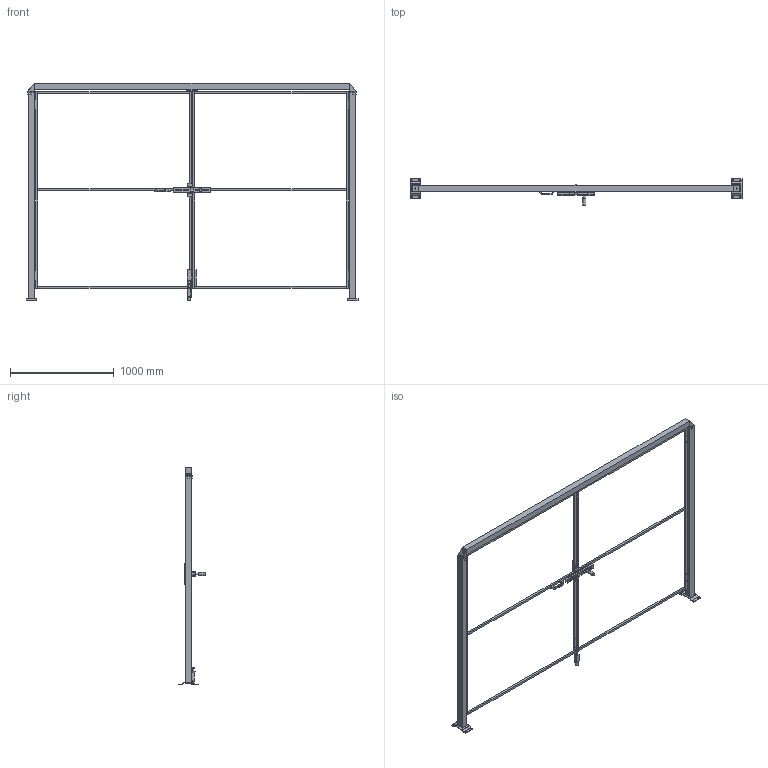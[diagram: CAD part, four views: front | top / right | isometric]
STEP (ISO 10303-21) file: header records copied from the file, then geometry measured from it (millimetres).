
FILE_DESCRIPTION(/* description */ (''),/* implementation_level */ '2;1');
FILE_NAME(/* name */ 'C:\SafeGuarding\ELABORATI\VZOR§DVOUKŘÍDLÉ_2025-02-03-10-32-56.stp',/* time_stamp */ '2025-02-03T10:32:59+01:00',/* author */ ('admin'),/* organization */ (''),/* preprocessor_version */ 'ST-DEVELOPER v18.1',/* originating_system */ 'AutoCAD Mechanical',/* authorisation */ '');
FILE_SCHEMA (('AUTOMOTIVE_DESIGN { 1 0 10303 214 3 1 1 }'));
Length unit declared in the file: millimetre
Products named in the file (5): Product; *U4; DATI_PORTA; P_VFMA.ME60SDU.2020; R_VFPA.REPE20.15001900
Assembly tree (6 placements, depth 2):
  Product
    R_VFPA.REPE20.15001900  x2
    P_VFMA.ME60SDU.2020  x2
    *U4
    DATI_PORTA
Bounding box: 3205 x 255.76 x 2100.5 mm (x, y, z)
Volume: 33172007.6 mm3; surface area: 3635664.3 mm2
Topology: 37 solids, 48 shells, 472 faces, 1539 edges, 1502 vertices
Faces by surface type: plane 428, cylinder 42, cone 2
Full cylindrical faces by diameter (mm): 11 x25, 12 x1, 14 x2, 24 x1, 30 x1
Entity records: 13703 total; most frequent: CARTESIAN_POINT 2867, DIRECTION 2068, ORIENTED_EDGE 1984, EDGE_CURVE 1041, LINE 1002, VECTOR 1002, VERTEX_POINT 729, AXIS2_PLACEMENT_3D 533
